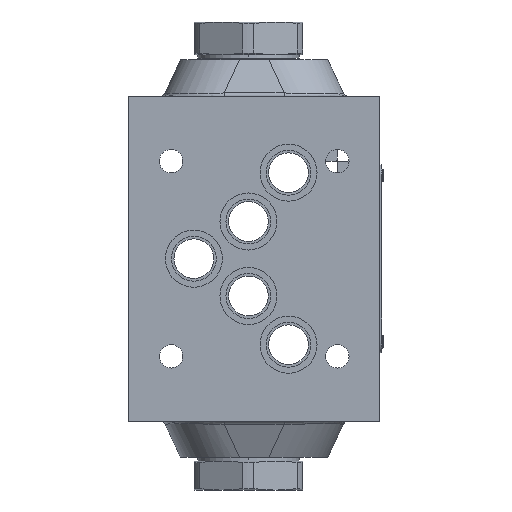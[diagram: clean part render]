
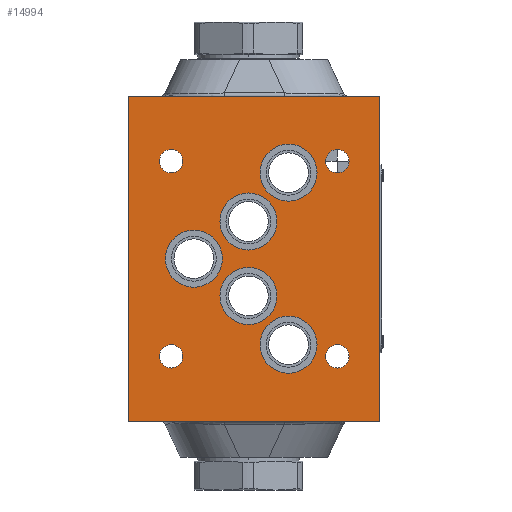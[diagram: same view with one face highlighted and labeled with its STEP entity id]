
A CAD part, front view. The second image highlights one B-rep face of the part: STEP entity #14994.
In plain terms, the highlighted planar face has unit normal (0, -1, 0).
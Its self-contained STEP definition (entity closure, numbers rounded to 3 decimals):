
#244=DIRECTION('',(1.,0.,0.));
#245=VECTOR('',#244,69.5);
#246=CARTESIAN_POINT('',(-34.75,-25.,0.));
#247=LINE('',#246,#245);
#1128=DIRECTION('',(0.,0.,1.));
#1129=VECTOR('',#1128,90.);
#1130=CARTESIAN_POINT('',(34.75,-25.,0.));
#1131=LINE('',#1130,#1129);
#1156=CARTESIAN_POINT('',(-23.,-25.,18.));
#1157=DIRECTION('',(0.,-1.,0.));
#1158=DIRECTION('',(1.,0.,0.));
#1159=AXIS2_PLACEMENT_3D('',#1156,#1157,#1158);
#1164=CARTESIAN_POINT('',(-23.,-25.,18.));
#1165=DIRECTION('',(0.,-1.,0.));
#1166=DIRECTION('',(-1.,0.,0.));
#1167=AXIS2_PLACEMENT_3D('',#1164,#1165,#1166);
#1172=CARTESIAN_POINT('',(-23.,-25.,72.));
#1173=DIRECTION('',(0.,-1.,0.));
#1174=DIRECTION('',(1.,0.,0.));
#1175=AXIS2_PLACEMENT_3D('',#1172,#1173,#1174);
#1180=CARTESIAN_POINT('',(-23.,-25.,72.));
#1181=DIRECTION('',(0.,-1.,0.));
#1182=DIRECTION('',(-1.,0.,0.));
#1183=AXIS2_PLACEMENT_3D('',#1180,#1181,#1182);
#1188=CARTESIAN_POINT('',(23.,-25.,72.));
#1189=DIRECTION('',(0.,-1.,0.));
#1190=DIRECTION('',(1.,0.,0.));
#1191=AXIS2_PLACEMENT_3D('',#1188,#1189,#1190);
#1196=CARTESIAN_POINT('',(23.,-25.,72.));
#1197=DIRECTION('',(0.,-1.,0.));
#1198=DIRECTION('',(-1.,0.,0.));
#1199=AXIS2_PLACEMENT_3D('',#1196,#1197,#1198);
#1204=CARTESIAN_POINT('',(23.,-25.,18.));
#1205=DIRECTION('',(0.,-1.,0.));
#1206=DIRECTION('',(1.,0.,0.));
#1207=AXIS2_PLACEMENT_3D('',#1204,#1205,#1206);
#1212=CARTESIAN_POINT('',(23.,-25.,18.));
#1213=DIRECTION('',(0.,-1.,0.));
#1214=DIRECTION('',(-1.,0.,0.));
#1215=AXIS2_PLACEMENT_3D('',#1212,#1213,#1214);
#1220=CARTESIAN_POINT('',(-9.5,-25.,21.2));
#1221=DIRECTION('',(0.,-1.,0.));
#1222=DIRECTION('',(0.,0.,1.));
#1223=AXIS2_PLACEMENT_3D('',#1220,#1221,#1222);
#1228=CARTESIAN_POINT('',(-9.5,-25.,21.2));
#1229=DIRECTION('',(0.,-1.,0.));
#1230=DIRECTION('',(0.,0.,-1.));
#1231=AXIS2_PLACEMENT_3D('',#1228,#1229,#1230);
#1236=CARTESIAN_POINT('',(1.6,-25.,34.7));
#1237=DIRECTION('',(0.,-1.,0.));
#1238=DIRECTION('',(0.,0.,1.));
#1239=AXIS2_PLACEMENT_3D('',#1236,#1237,#1238);
#1244=CARTESIAN_POINT('',(1.6,-25.,34.7));
#1245=DIRECTION('',(0.,-1.,0.));
#1246=DIRECTION('',(0.,0.,-1.));
#1247=AXIS2_PLACEMENT_3D('',#1244,#1245,#1246);
#1252=CARTESIAN_POINT('',(16.7,-25.,45.));
#1253=DIRECTION('',(0.,-1.,0.));
#1254=DIRECTION('',(0.,0.,1.));
#1255=AXIS2_PLACEMENT_3D('',#1252,#1253,#1254);
#1260=CARTESIAN_POINT('',(16.7,-25.,45.));
#1261=DIRECTION('',(0.,-1.,0.));
#1262=DIRECTION('',(0.,0.,-1.));
#1263=AXIS2_PLACEMENT_3D('',#1260,#1261,#1262);
#1268=CARTESIAN_POINT('',(1.6,-25.,55.3));
#1269=DIRECTION('',(0.,-1.,0.));
#1270=DIRECTION('',(0.,0.,1.));
#1271=AXIS2_PLACEMENT_3D('',#1268,#1269,#1270);
#1276=CARTESIAN_POINT('',(1.6,-25.,55.3));
#1277=DIRECTION('',(0.,-1.,0.));
#1278=DIRECTION('',(0.,0.,-1.));
#1279=AXIS2_PLACEMENT_3D('',#1276,#1277,#1278);
#1284=CARTESIAN_POINT('',(-9.5,-25.,68.8));
#1285=DIRECTION('',(0.,-1.,0.));
#1286=DIRECTION('',(0.,0.,1.));
#1287=AXIS2_PLACEMENT_3D('',#1284,#1285,#1286);
#1292=CARTESIAN_POINT('',(-9.5,-25.,68.8));
#1293=DIRECTION('',(0.,-1.,0.));
#1294=DIRECTION('',(0.,0.,-1.));
#1295=AXIS2_PLACEMENT_3D('',#1292,#1293,#1294);
#4184=DIRECTION('',(0.,0.,1.));
#4185=VECTOR('',#4184,90.);
#4186=CARTESIAN_POINT('',(-34.75,-25.,0.));
#4187=LINE('',#4186,#4185);
#10204=DIRECTION('',(1.,0.,0.));
#10205=VECTOR('',#10204,69.5);
#10206=CARTESIAN_POINT('',(-34.75,-25.,90.));
#10207=LINE('',#10206,#10205);
#11850=CARTESIAN_POINT('',(-34.75,-25.,0.));
#11851=CARTESIAN_POINT('',(34.75,-25.,0.));
#11852=VERTEX_POINT('',#11850);
#11853=VERTEX_POINT('',#11851);
#11854=CARTESIAN_POINT('',(-34.75,-25.,90.));
#11855=CARTESIAN_POINT('',(34.75,-25.,90.));
#11856=VERTEX_POINT('',#11854);
#11857=VERTEX_POINT('',#11855);
#11859=CARTESIAN_POINT('',(-19.75,-25.,18.));
#11861=VERTEX_POINT('',#11859);
#11863=CARTESIAN_POINT('',(-26.25,-25.,18.));
#11865=VERTEX_POINT('',#11863);
#11867=CARTESIAN_POINT('',(-19.75,-25.,72.));
#11869=VERTEX_POINT('',#11867);
#11871=CARTESIAN_POINT('',(-26.25,-25.,72.));
#11873=VERTEX_POINT('',#11871);
#11875=CARTESIAN_POINT('',(26.25,-25.,72.));
#11877=VERTEX_POINT('',#11875);
#11879=CARTESIAN_POINT('',(19.75,-25.,72.));
#11881=VERTEX_POINT('',#11879);
#11883=CARTESIAN_POINT('',(26.25,-25.,18.));
#11885=VERTEX_POINT('',#11883);
#11887=CARTESIAN_POINT('',(19.75,-25.,18.));
#11889=VERTEX_POINT('',#11887);
#11950=CARTESIAN_POINT('',(-9.5,-25.,28.925));
#11951=CARTESIAN_POINT('',(-9.5,-25.,13.475));
#11952=VERTEX_POINT('',#11950);
#11953=VERTEX_POINT('',#11951);
#11954=CARTESIAN_POINT('',(1.6,-25.,42.425));
#11955=CARTESIAN_POINT('',(1.6,-25.,26.975));
#11956=VERTEX_POINT('',#11954);
#11957=VERTEX_POINT('',#11955);
#11958=CARTESIAN_POINT('',(16.7,-25.,52.725));
#11959=CARTESIAN_POINT('',(16.7,-25.,37.275));
#11960=VERTEX_POINT('',#11958);
#11961=VERTEX_POINT('',#11959);
#11962=CARTESIAN_POINT('',(1.6,-25.,63.025));
#11963=CARTESIAN_POINT('',(1.6,-25.,47.575));
#11964=VERTEX_POINT('',#11962);
#11965=VERTEX_POINT('',#11963);
#11966=CARTESIAN_POINT('',(-9.5,-25.,76.525));
#11967=CARTESIAN_POINT('',(-9.5,-25.,61.075));
#11968=VERTEX_POINT('',#11966);
#11969=VERTEX_POINT('',#11967);
#14927=CARTESIAN_POINT('',(0.,-25.,0.));
#14928=DIRECTION('',(0.,1.,0.));
#14929=DIRECTION('',(0.,0.,-1.));
#14930=AXIS2_PLACEMENT_3D('',#14927,#14928,#14929);
#14931=PLANE('',#14930);
#14932=ORIENTED_EDGE('',*,*,#13847,.F.);
#14934=ORIENTED_EDGE('',*,*,#14933,.T.);
#14936=ORIENTED_EDGE('',*,*,#14935,.T.);
#14937=ORIENTED_EDGE('',*,*,#14911,.F.);
#14938=EDGE_LOOP('',(#14932,#14934,#14936,#14937));
#14939=FACE_OUTER_BOUND('',#14938,.F.);
#14941=ORIENTED_EDGE('',*,*,#14940,.T.);
#14943=ORIENTED_EDGE('',*,*,#14942,.T.);
#14944=EDGE_LOOP('',(#14941,#14943));
#14945=FACE_BOUND('',#14944,.F.);
#14947=ORIENTED_EDGE('',*,*,#14946,.T.);
#14949=ORIENTED_EDGE('',*,*,#14948,.T.);
#14950=EDGE_LOOP('',(#14947,#14949));
#14951=FACE_BOUND('',#14950,.F.);
#14953=ORIENTED_EDGE('',*,*,#14952,.T.);
#14955=ORIENTED_EDGE('',*,*,#14954,.T.);
#14956=EDGE_LOOP('',(#14953,#14955));
#14957=FACE_BOUND('',#14956,.F.);
#14959=ORIENTED_EDGE('',*,*,#14958,.T.);
#14961=ORIENTED_EDGE('',*,*,#14960,.T.);
#14962=EDGE_LOOP('',(#14959,#14961));
#14963=FACE_BOUND('',#14962,.F.);
#14965=ORIENTED_EDGE('',*,*,#14964,.T.);
#14967=ORIENTED_EDGE('',*,*,#14966,.T.);
#14968=EDGE_LOOP('',(#14965,#14967));
#14969=FACE_BOUND('',#14968,.F.);
#14971=ORIENTED_EDGE('',*,*,#14970,.T.);
#14973=ORIENTED_EDGE('',*,*,#14972,.T.);
#14974=EDGE_LOOP('',(#14971,#14973));
#14975=FACE_BOUND('',#14974,.F.);
#14977=ORIENTED_EDGE('',*,*,#14976,.T.);
#14979=ORIENTED_EDGE('',*,*,#14978,.T.);
#14980=EDGE_LOOP('',(#14977,#14979));
#14981=FACE_BOUND('',#14980,.F.);
#14983=ORIENTED_EDGE('',*,*,#14982,.T.);
#14985=ORIENTED_EDGE('',*,*,#14984,.T.);
#14986=EDGE_LOOP('',(#14983,#14985));
#14987=FACE_BOUND('',#14986,.F.);
#14989=ORIENTED_EDGE('',*,*,#14988,.T.);
#14991=ORIENTED_EDGE('',*,*,#14990,.T.);
#14992=EDGE_LOOP('',(#14989,#14991));
#14993=FACE_BOUND('',#14992,.F.);
#1160=CIRCLE('',#1159,3.25);
#1168=CIRCLE('',#1167,3.25);
#1176=CIRCLE('',#1175,3.25);
#1184=CIRCLE('',#1183,3.25);
#1192=CIRCLE('',#1191,3.25);
#1200=CIRCLE('',#1199,3.25);
#1208=CIRCLE('',#1207,3.25);
#1216=CIRCLE('',#1215,3.25);
#1224=CIRCLE('',#1223,7.725);
#1232=CIRCLE('',#1231,7.725);
#1240=CIRCLE('',#1239,7.725);
#1248=CIRCLE('',#1247,7.725);
#1256=CIRCLE('',#1255,7.725);
#1264=CIRCLE('',#1263,7.725);
#1272=CIRCLE('',#1271,7.725);
#1280=CIRCLE('',#1279,7.725);
#1288=CIRCLE('',#1287,7.725);
#1296=CIRCLE('',#1295,7.725);
#13847=EDGE_CURVE('',#11852,#11853,#247,.T.);
#14911=EDGE_CURVE('',#11853,#11857,#1131,.T.);
#14933=EDGE_CURVE('',#11852,#11856,#4187,.T.);
#14935=EDGE_CURVE('',#11856,#11857,#10207,.T.);
#14940=EDGE_CURVE('',#11861,#11865,#1160,.T.);
#14942=EDGE_CURVE('',#11865,#11861,#1168,.T.);
#14946=EDGE_CURVE('',#11869,#11873,#1176,.T.);
#14948=EDGE_CURVE('',#11873,#11869,#1184,.T.);
#14952=EDGE_CURVE('',#11877,#11881,#1192,.T.);
#14954=EDGE_CURVE('',#11881,#11877,#1200,.T.);
#14958=EDGE_CURVE('',#11885,#11889,#1208,.T.);
#14960=EDGE_CURVE('',#11889,#11885,#1216,.T.);
#14964=EDGE_CURVE('',#11952,#11953,#1224,.T.);
#14966=EDGE_CURVE('',#11953,#11952,#1232,.T.);
#14970=EDGE_CURVE('',#11956,#11957,#1240,.T.);
#14972=EDGE_CURVE('',#11957,#11956,#1248,.T.);
#14976=EDGE_CURVE('',#11960,#11961,#1256,.T.);
#14978=EDGE_CURVE('',#11961,#11960,#1264,.T.);
#14982=EDGE_CURVE('',#11964,#11965,#1272,.T.);
#14984=EDGE_CURVE('',#11965,#11964,#1280,.T.);
#14988=EDGE_CURVE('',#11968,#11969,#1288,.T.);
#14990=EDGE_CURVE('',#11969,#11968,#1296,.T.);
#14994=ADVANCED_FACE('',(#14939,#14945,#14951,#14957,#14963,#14969,#14975,
#14981,#14987,#14993),#14931,.F.);
